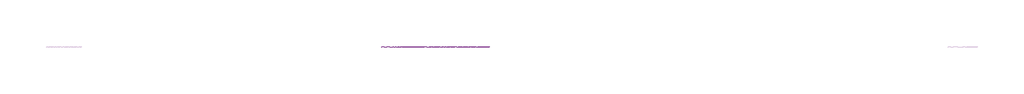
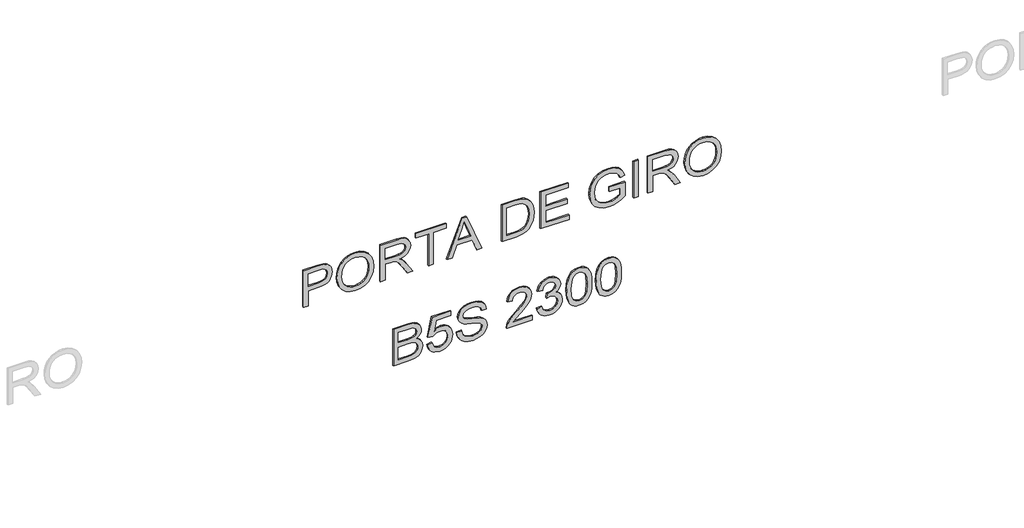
# One storey, part 3 of 13: 1 proxy.
"""IFC4 building model written with IfcOpenShell, lengths in millimetres."""

from ifc_helpers import new_model, si_unit, frame, origin, place, context, project, spatial, polyline, outline, extrude, element, save

model = new_model("IFC4")

# Units and contexts
model_context = context("Model", 3, world=origin())
ifc_project = project(units=[si_unit("LENGTHUNIT", "METRE", prefix="MILLI")], contexts=[model_context])

# Site, building, storey
site = spatial("IfcSite", under=ifc_project)
building = spatial("IfcBuilding", under=site)
storey = spatial("IfcBuildingStorey", under=building, Name="02 - Marelli - Planta Baixa - Portas", Elevation=-12000.0)

# Proxy
placement = place(None, origin())
element("IfcBuildingElementProxy", 1, Name="300mm Arial", ObjectType="300mm Arial", at=placement, inside=storey, context=model_context, shape_type="SweptSolid", body=[
    extrude(outline(polyline([(-6049.0625952, 12248.0968395), (-6049.0625952, 12285.7679558), (-5926.6314672, 12285.7679558), (-5926.6314672, 12362.3609872), (-5924.9668012, 12391.5593213), (-5919.9728031, 12415.8786204), (-5911.6494729, 12435.3188846), (-5899.9968107, 12449.8801138), (-5885.93912, 12460.4866116), (-5870.4007042, 12468.0626814), (-5853.3815634, 12472.6083233), (-5834.8816976, 12474.1235373), (-5813.4249802, 12471.8794571), (-5793.7892787, 12465.1472166), (-5777.1426184, 12454.7269591), (-5764.6530247, 12441.4188279), (-5755.9250244, 12424.8917293), (-5750.5631443, 12404.8145694), (-5747.6936647, 12359.7858132), (-5747.6936647, 12248.0968395), (-6049.0625952, 12248.0968395)]), holes=[polyline([(-5888.9603509, 12285.7679558), (-5785.364781, 12285.7679558), (-5785.364781, 12363.6853623), (-5787.939955, 12401.3564786), (-5794.2675253, 12415.5843148), (-5805.0096796, 12426.7771245), (-5819.283501, 12434.0335969), (-5836.2060728, 12436.452421), (-5858.4813276, 12432.3505367), (-5875.1279879, 12420.044884), (-5885.5022601, 12397.9719643), (-5888.9603509, 12364.5682791), (-5888.9603509, 12285.7679558)])]), frame((0.0, 8778.3159498, 0.0), z_axis=(0.0, 1.0, 0.0), x_axis=(0.0, 0.0, 1.0)), (0.0, 0.0, 1.0), 10.0),
    extrude(outline(polyline([(-5902.3512555, 12511.7946536), (-5940.8960916, 12516.0988729), (-5977.3623943, 12529.011531), (-6009.0554282, 12550.2751103), (-6033.2804576, 12579.6320935), (-6048.6487279, 12615.2798588), (-6053.7714847, 12655.4157845), (-6049.1361716, 12693.2248566), (-6035.2302322, 12728.3667842), (-6012.3111839, 12758.3307727), (-5980.6365441, 12780.6060275), (-5942.1744815, 12794.4291934), (-5898.8931648, 12799.0369154), (-5856.1820651, 12794.6591197), (-5818.2534314, 12781.5257325), (-5786.6339739, 12760.0414239), (-5762.8504029, 12730.6108643), (-5747.9511821, 12695.1654341), (-5742.9847752, 12655.6365137), (-5745.628927, 12625.3460299), (-5753.5613826, 12597.971011), (-5766.7821418, 12573.5114568), (-5785.2912046, 12551.9673675), (-5808.4723689, 12534.3918051), (-5835.7094321, 12521.8378321), (-5867.0023943, 12514.3054482), (-5902.3512555, 12511.7946536)]), holes=[polyline([(-5902.7191375, 12549.4657699), (-5872.1826326, 12551.4293401), (-5846.3504188, 12557.3200505), (-5825.222496, 12567.1379012), (-5808.7988641, 12580.8828923), (-5796.4863136, 12597.3502101), (-5787.6916347, 12615.3350411), (-5782.4148273, 12634.8373854), (-5780.6558915, 12655.8572429), (-5784.3071203, 12685.0210881), (-5795.2608067, 12711.1499068), (-5812.8547631, 12732.8089592), (-5836.426802, 12748.5635057), (-5865.2503563, 12758.1652258), (-5898.5988592, 12761.3657991), (-5925.1369466, 12759.4964987), (-5948.4652636, 12753.8885976), (-5968.5838102, 12744.5420956), (-5985.4925864, 12731.4569929), (-5998.883491, 12715.4748195), (-6008.4484229, 12697.4371054), (-6014.187382, 12677.3438507), (-6016.1003684, 12655.1950553), (-6014.2057761, 12633.4187405), (-6008.5219993, 12613.5600105), (-5999.0490379, 12595.6188655), (-5985.786892, 12579.5953053), (-5969.2276037, 12566.4136336), (-5949.8632152, 12556.9981538), (-5927.6937264, 12551.3488659), (-5902.7191375, 12549.4657699)])]), frame((0.0, 8778.3159498, 0.0), z_axis=(0.0, 1.0, 0.0), x_axis=(0.0, 0.0, 1.0)), (0.0, 0.0, 1.0), 10.0),
    extrude(outline(polyline([(-6049.0625952, 12850.8347003), (-6049.0625952, 12888.5058167), (-5917.2136881, 12888.5058167), (-5917.2136881, 12933.9760313), (-5918.5380633, 12955.8282218), (-5925.7117622, 12973.7440749), (-5945.2462961, 12993.6464909), (-5986.5962324, 13021.9734045), (-6049.0625952, 13061.1896252), (-6049.0625952, 13104.9675826), (-5967.3927923, 13054.7149021), (-5928.61803, 13024.1806965), (-5912.5047986, 13002.7699644), (-5902.5168024, 13039.8800606), (-5894.5015734, 13054.2619474), (-5884.4721905, 13065.8617265), (-5859.8608851, 13081.1748146), (-5830.1728081, 13086.2791773), (-5806.3064636, 13083.1981656), (-5784.5922289, 13073.9551304), (-5767.0810459, 13059.5525503), (-5755.8238568, 13040.9929037), (-5749.7262128, 13015.5998489), (-5747.6936647, 12980.6970446), (-5747.6936647, 12850.8347003), (-6049.0625952, 12850.8347003)]), holes=[polyline([(-5879.5425718, 12888.5058167), (-5785.364781, 12888.5058167), (-5785.364781, 12982.3157254), (-5788.6205367, 13012.1233641), (-5798.3878037, 13032.6787706), (-5813.195054, 13044.6257384), (-5831.5707596, 13048.608061), (-5844.8788908, 13046.5203306), (-5857.1385583, 13040.2571397), (-5867.2737073, 13029.9748379), (-5874.2082829, 13015.8297752), (-5878.2089996, 12997.0402023), (-5879.5425718, 12972.82437), (-5879.5425718, 12888.5058167)])]), frame((0.0, 8778.3159498, 0.0), z_axis=(0.0, 1.0, 0.0), x_axis=(0.0, 0.0, 1.0)), (0.0, 0.0, 1.0), 10.0),
    extrude(outline(polyline([(-6049.0625952, 13227.5458634), (-6049.0625952, 13265.2169797), (-5785.364781, 13265.2169797), (-5785.364781, 13364.10366), (-5747.6936647, 13364.10366), (-5747.6936647, 13128.6591831), (-5785.364781, 13128.6591831), (-5785.364781, 13227.5458634), (-6049.0625952, 13227.5458634)])), frame((0.0, 8778.3159498, 0.0), z_axis=(0.0, 1.0, 0.0), x_axis=(0.0, 0.0, 1.0)), (0.0, 0.0, 1.0), 10.0),
    extrude(outline(polyline([(-6049.0625952, 13371.3877235), (-6049.0625952, 13411.1925554), (-5954.8848044, 13445.6263102), (-5954.8848044, 13569.7496953), (-6049.0625952, 13604.2570265), (-6049.0625952, 13644.0618583), (-5747.6936647, 13523.7644459), (-5747.6936647, 13491.6851359), (-6049.0625952, 13371.3877235)]), holes=[polyline([(-5917.2136881, 13459.4586732), (-5836.6475312, 13488.9628092), (-5785.364781, 13507.7247909), (-5843.1222543, 13528.8412175), (-5917.2136881, 13555.9909087), (-5917.2136881, 13459.4586732)])]), frame((0.0, 8778.3159498, 0.0), z_axis=(0.0, 1.0, 0.0), x_axis=(0.0, 0.0, 1.0)), (0.0, 0.0, 1.0), 10.0),
    extrude(outline(polyline([(-6049.0625952, 13802.0303871), (-6049.0625952, 13910.9970341), (-6043.9122473, 13959.4470928), (-6037.5570858, 13978.9908238), (-6028.7922972, 13995.4627401), (-6016.9740882, 14009.810138), (-6001.458665, 14022.9803134), (-5981.8045694, 14034.4214434), (-5957.570343, 14043.5817051), (-5929.1054736, 14049.5965757), (-5896.7594492, 14051.6015326), (-5858.6836627, 14048.6400825), (-5825.0960365, 14039.7557324), (-5796.5483937, 14024.9116939), (-5773.5925572, 14004.0711788), (-5760.4039877, 13983.8008809), (-5752.0346723, 13959.7781866), (-5747.6936647, 13905.9938389), (-5747.6936647, 13802.0303871), (-6049.0625952, 13802.0303871)]), holes=[polyline([(-6011.3914789, 13839.7015034), (-5785.364781, 13839.7015034), (-5785.364781, 13905.3316513), (-5786.8730972, 13937.0798675), (-5791.3980458, 13958.748117), (-5803.97961, 13980.0392875), (-5824.8017309, 13997.8539731), (-5855.1152073, 14009.9113055), (-5896.170838, 14013.9304163), (-5927.155699, 14011.8794742), (-5953.155759, 14005.7266478), (-5974.2629885, 13995.8950015), (-5990.5693579, 13982.8075995), (-5999.3801317, 13970.6307055), (-6005.9468253, 13954.8485679), (-6010.0303155, 13933.9344764), (-6011.3914789, 13906.3617209), (-6011.3914789, 13839.7015034)])]), frame((0.0, 8778.3159498, 0.0), z_axis=(0.0, 1.0, 0.0), x_axis=(0.0, 0.0, 1.0)), (0.0, 0.0, 1.0), 10.0),
    extrude(outline(polyline([(-6049.0625952, 14103.3993175), (-6049.0625952, 14324.7171258), (-6011.3914789, 14324.7171258), (-6011.3914789, 14141.0704338), (-5912.5047986, 14141.0704338), (-5912.5047986, 14310.5904572), (-5874.8336823, 14310.5904572), (-5874.8336823, 14141.0704338), (-5785.364781, 14141.0704338), (-5785.364781, 14320.0082363), (-5747.6936647, 14320.0082363), (-5747.6936647, 14103.3993175), (-6049.0625952, 14103.3993175)])), frame((0.0, 8778.3159498, 0.0), z_axis=(0.0, 1.0, 0.0), x_axis=(0.0, 0.0, 1.0)), (0.0, 0.0, 1.0), 10.0),
    extrude(outline(polyline([(-5931.3403567, 14640.2127249), (-5931.3403567, 14724.9727366), (-5985.786892, 14724.9727366), (-5996.4278787, 14708.9238845), (-6006.4250719, 14686.8233737), (-6013.6815443, 14661.3751367), (-6016.1003684, 14635.2831062), (-6012.890598, 14605.7329849), (-6003.2612868, 14577.8567267), (-5987.0192967, 14554.0363675), (-5963.9714897, 14536.6539432), (-5934.3293979, 14526.0313506), (-5898.3045536, 14522.4904864), (-5867.586407, 14525.4335424), (-5839.1491287, 14534.2627103), (-5810.1232393, 14553.6500914), (-5798.1854686, 14568.0894597), (-5788.7860836, 14586.4651654), (-5782.6884395, 14608.694435), (-5780.6558915, 14634.694495), (-5782.5412867, 14656.9053704), (-5788.1974724, 14677.0377126), (-5796.9898521, 14693.9234962), (-5808.2838293, 14706.3946958), (-5823.2658236, 14715.8216719), (-5843.1222543, 14723.574785), (-5833.3365932, 14758.3028453), (-5805.4971232, 14748.7103223), (-5783.4885829, 14735.5309498), (-5766.4924347, 14717.7162642), (-5753.6901413, 14694.2178018), (-5745.6611167, 14666.3139524), (-5742.9847752, 14635.2831062), (-5747.6016942, 14593.0134649), (-5761.4524514, 14555.967748), (-5784.803761, 14525.553104), (-5817.9223376, 14503.1766817), (-5857.4052727, 14489.408698), (-5899.8496579, 14484.8193701), (-5941.9905405, 14489.4270921), (-5979.9743565, 14503.2502581), (-6011.6397992, 14526.1141241), (-6034.825562, 14557.8439462), (-6049.035004, 14596.0392943), (-6053.7714847, 14638.2997385), (-6050.7916406, 14670.6457629), (-6041.8521081, 14702.2008411), (-6027.0080696, 14732.8913965), (-6006.3147073, 14762.6438529), (-5893.6692404, 14762.6438529), (-5893.6692404, 14640.2127249), (-5931.3403567, 14640.2127249)])), frame((0.0, 8778.3159498, 0.0), z_axis=(0.0, 1.0, 0.0), x_axis=(0.0, 0.0, 1.0)), (0.0, 0.0, 1.0), 10.0),
    extrude(outline(polyline([(14866.2394227, 8778.3159498), (14828.5683064, 8778.3159498), (14828.5683064, 8788.3159498), (14866.2394227, 8788.3159498), (14866.2394227, 8778.3159498)])), frame((0.0, 0.0, -6049.0625952), z_axis=(0.0, 0.0, 1.0), x_axis=(1.0, 0.0, 0.0)), (0.0, 0.0, 1.0), 301.3689304),
    extrude(outline(polyline([(-6049.0625952, 14941.5816553), (-6049.0625952, 14979.2527716), (-5917.2136881, 14979.2527716), (-5917.2136881, 15024.7229862), (-5918.5380633, 15046.5751768), (-5925.7117622, 15064.4910299), (-5945.2462961, 15084.3934459), (-5986.5962324, 15112.7203595), (-6049.0625952, 15151.9365802), (-6049.0625952, 15195.7145376), (-5967.3927923, 15145.4618571), (-5928.61803, 15114.9276515), (-5912.5047986, 15093.5169193), (-5902.5168024, 15130.6270156), (-5894.5015734, 15145.0089024), (-5884.4721905, 15156.6086815), (-5859.8608851, 15171.9217696), (-5830.1728081, 15177.0261323), (-5806.3064636, 15173.9451205), (-5784.5922289, 15164.7020854), (-5767.0810459, 15150.2995053), (-5755.8238568, 15131.7398586), (-5749.7262128, 15106.3468039), (-5747.6936647, 15071.4439996), (-5747.6936647, 14941.5816553), (-6049.0625952, 14941.5816553)]), holes=[polyline([(-5879.5425718, 14979.2527716), (-5785.364781, 14979.2527716), (-5785.364781, 15073.0626804), (-5788.6205367, 15102.8703191), (-5798.3878037, 15123.4257256), (-5813.195054, 15135.3726933), (-5831.5707596, 15139.3550159), (-5844.8788908, 15137.2672856), (-5857.1385583, 15131.0040947), (-5867.2737073, 15120.7217929), (-5874.2082829, 15106.5767302), (-5878.2089996, 15087.7871573), (-5879.5425718, 15063.5713249), (-5879.5425718, 14979.2527716)])]), frame((0.0, 8778.3159498, 0.0), z_axis=(0.0, 1.0, 0.0), x_axis=(0.0, 0.0, 1.0)), (0.0, 0.0, 1.0), 10.0),
    extrude(outline(polyline([(-5902.3512555, 15228.8239172), (-5940.8960916, 15233.1281365), (-5977.3623943, 15246.0407945), (-6009.0554282, 15267.3043739), (-6033.2804576, 15296.6613571), (-6048.6487279, 15332.3091224), (-6053.7714847, 15372.4450481), (-6049.1361716, 15410.2541201), (-6035.2302322, 15445.3960477), (-6012.3111839, 15475.3600362), (-5980.6365441, 15497.635291), (-5942.1744815, 15511.458457), (-5898.8931648, 15516.066179), (-5856.1820651, 15511.6883833), (-5818.2534314, 15498.554996), (-5786.6339739, 15477.0706875), (-5762.8504029, 15447.6401279), (-5747.9511821, 15412.1946977), (-5742.9847752, 15372.6657773), (-5745.628927, 15342.3752935), (-5753.5613826, 15315.0002745), (-5766.7821418, 15290.5407204), (-5785.2912046, 15268.996631), (-5808.4723689, 15251.4210687), (-5835.7094321, 15238.8670956), (-5867.0023943, 15231.3347118), (-5902.3512555, 15228.8239172)]), holes=[polyline([(-5902.7191375, 15266.4950335), (-5872.1826326, 15268.4586036), (-5846.3504188, 15274.3493141), (-5825.222496, 15284.1671648), (-5808.7988641, 15297.9121559), (-5796.4863136, 15314.3794737), (-5787.6916347, 15332.3643047), (-5782.4148273, 15351.866649), (-5780.6558915, 15372.8865065), (-5784.3071203, 15402.0503517), (-5795.2608067, 15428.1791704), (-5812.8547631, 15449.8382228), (-5836.426802, 15465.5927693), (-5865.2503563, 15475.1944893), (-5898.5988592, 15478.3950627), (-5925.1369466, 15476.5257623), (-5948.4652636, 15470.9178611), (-5968.5838102, 15461.5713592), (-5985.4925864, 15448.4862565), (-5998.883491, 15432.5040831), (-6008.4484229, 15414.466369), (-6014.187382, 15394.3731143), (-6016.1003684, 15372.2243189), (-6014.2057761, 15350.448004), (-6008.5219993, 15330.5892741), (-5999.0490379, 15312.648129), (-5985.786892, 15296.6245689), (-5969.2276037, 15283.4428971), (-5949.8632152, 15274.0274173), (-5927.6937264, 15268.3781294), (-5902.7191375, 15266.4950335)])]), frame((0.0, 8778.3159498, 0.0), z_axis=(0.0, 1.0, 0.0), x_axis=(0.0, 0.0, 1.0)), (0.0, 0.0, 1.0), 10.0),
    extrude(outline(polyline([(-6780.9115023, 12954.4302702), (-6780.9115023, 13068.5472651), (-6775.7243661, 13116.8501711), (-6769.3048253, 13134.8855859), (-6760.4204751, 13149.6284568), (-6748.1516106, 13161.6673951), (-6731.5785267, 13171.5910119), (-6712.089978, 13178.240479), (-6691.074719, 13180.456968), (-6665.8564083, 13177.2104094), (-6644.2065528, 13167.4707336), (-6627.2471929, 13151.6977931), (-6616.1003684, 13130.3514403), (-6604.3557357, 13148.2213082), (-6589.4289238, 13160.9224341), (-6572.3683962, 13168.5100002), (-6554.2226168, 13171.039189), (-6534.5041419, 13168.0317536), (-6515.6685837, 13159.0094477), (-6499.6565199, 13144.680444), (-6488.4085279, 13125.7529153), (-6481.7590608, 13101.0588364), (-6479.5425718, 13069.4301819), (-6479.5425718, 12954.4302702), (-6780.9115023, 12954.4302702)]), holes=[polyline([(-6743.2403859, 12992.1013865), (-6639.6448161, 12992.1013865), (-6639.6448161, 13065.6777855), (-6640.9048119, 13092.50558), (-6644.6847994, 13112.2148579), (-6651.5733898, 13126.1299944), (-6662.1591942, 13135.5753646), (-6675.6972516, 13140.9832299), (-6691.442601, 13142.7858517), (-6704.9990525, 13141.2499444), (-6716.8264587, 13136.6422224), (-6733.5650895, 13120.9704494), (-6741.768858, 13097.3156371), (-6743.2403859, 13069.3566055), (-6743.2403859, 12992.1013865)]), polyline([(-6601.9736998, 12992.1013865), (-6517.2136881, 12992.1013865), (-6517.2136881, 13055.6713953), (-6521.1500255, 13104.0846658), (-6526.7510288, 13116.5742596), (-6535.6813643, 13125.7897035), (-6547.1224943, 13131.4734804), (-6560.2558815, 13133.3680726), (-6573.7847419, 13131.3355246), (-6584.7936106, 13125.2378806), (-6593.153729, 13115.1303227), (-6598.7363382, 13101.0680335), (-6601.9736998, 13060.8953196), (-6601.9736998, 12992.1013865)])]), frame((0.0, 8778.3159498, 0.0), z_axis=(0.0, 1.0, 0.0), x_axis=(0.0, 0.0, 1.0)), (0.0, 0.0, 1.0), 10.0),
    extrude(outline(polyline([(-6700.8603801, 13218.1280843), (-6735.4136965, 13227.3159372), (-6749.8553641, 13236.0416382), (-6762.4070379, 13247.5218557), (-6772.5628802, 13261.3197298), (-6779.8170533, 13276.9984006), (-6785.6203918, 13313.9981323), (-6783.362516, 13337.4873977), (-6776.5888888, 13358.3647009), (-6765.2995101, 13376.630042), (-6749.4943799, 13392.2834209), (-6734.0617302, 13402.6163064), (-6717.2679171, 13409.9969389), (-6679.5968008, 13415.9014449), (-6659.3356999, 13414.2620708), (-6641.0059795, 13409.3439484), (-6624.6076396, 13401.1470777), (-6610.1406801, 13389.6714587), (-6598.3270695, 13375.8092053), (-6589.8887763, 13360.4524312), (-6584.8258003, 13343.6011366), (-6583.1381416, 13325.2553213), (-6588.5827952, 13297.0571664), (-6604.9167558, 13270.1465985), (-6521.9225776, 13286.2598298), (-6521.9225776, 13401.7747763), (-6484.2514613, 13401.7747763), (-6484.2514613, 13255.7992006), (-6639.6448161, 13222.8369739), (-6644.3537056, 13260.5080902), (-6627.3575575, 13281.6613049), (-6622.4463328, 13296.4593582), (-6620.809258, 13314.7338963), (-6624.9111422, 13342.6285486), (-6637.2167949, 13362.448191), (-6656.6041761, 13374.2847942), (-6681.9512456, 13378.2303286), (-6708.8710105, 13374.0180798), (-6729.8862695, 13361.3813333), (-6743.433524, 13341.1478235), (-6747.9492755, 13314.1452851), (-6744.7027169, 13291.9436067), (-6734.9630411, 13274.7819116), (-6718.7670362, 13262.7153821), (-6696.1514906, 13255.7992006), (-6700.8603801, 13218.1280843)])), frame((0.0, 8778.3159498, 0.0), z_axis=(0.0, 1.0, 0.0), x_axis=(0.0, 0.0, 1.0)), (0.0, 0.0, 1.0), 10.0),
    extrude(outline(polyline([(-6677.3159324, 13448.8636717), (-6707.7397734, 13453.333438), (-6734.8526765, 13465.1240559), (-6757.1095372, 13483.4905645), (-6772.9652512, 13507.6880027), (-6782.4566066, 13538.0658585), (-6785.6203918, 13574.9736197), (-6782.6865329, 13605.0387757), (-6773.8849561, 13631.9585407), (-6759.7950757, 13654.3441601), (-6740.9963058, 13670.8068794), (-6719.1533123, 13680.9328313), (-6695.9307614, 13684.3081486), (-6673.2140482, 13681.3742897), (-6653.3300263, 13672.572713), (-6636.4626368, 13657.5907187), (-6622.7958207, 13636.1156073), (-6613.9850469, 13610.989267), (-6603.8866862, 13569.4553897), (-6593.2548965, 13529.2090995), (-6582.8438361, 13507.9455201), (-6571.2003709, 13498.9508054), (-6556.7242144, 13495.9525671), (-6539.7464603, 13500.18321), (-6525.4542448, 13512.8751389), (-6515.7421601, 13534.8192999), (-6512.5047986, 13566.8066394), (-6515.7789483, 13598.0582149), (-6525.6013976, 13620.5909871), (-6541.8249936, 13635.0119613), (-6564.3025835, 13641.9281428), (-6564.3025835, 13679.5992591), (-6539.3417901, 13675.350222), (-6517.1401117, 13664.6632501), (-6498.8379825, 13647.7774665), (-6485.5758365, 13624.9319946), (-6477.5192208, 13597.1201158), (-6474.8336823, 13565.3351114), (-6477.3996592, 13535.9965223), (-6485.0975899, 13509.4906245), (-6497.7527306, 13487.4085078), (-6515.1903371, 13471.3412616), (-6535.7641377, 13461.5464035), (-6557.8278604, 13458.2814508), (-6577.5647294, 13460.9210041), (-6595.2782475, 13468.839664), (-6610.6373208, 13482.1294011), (-6623.3108555, 13500.8821858), (-6632.3699497, 13523.9207958), (-6641.8888963, 13559.9272461), (-6656.2730823, 13614.7784515), (-6664.0813776, 13630.8548947), (-6673.3795951, 13640.3830384), (-6684.2780992, 13645.0735338), (-6696.8872546, 13646.6370323), (-6709.8275037, 13644.549302), (-6722.1607476, 13638.286111), (-6732.9029019, 13627.7554889), (-6741.0698822, 13612.8654652), (-6746.2294272, 13594.4897595), (-6747.9492755, 13573.5020917), (-6745.6776042, 13549.6633384), (-6738.8625902, 13528.3261827), (-6728.3595592, 13510.870182), (-6715.0238369, 13498.6748939), (-6698.2208268, 13490.8574015), (-6677.3159324, 13486.534788), (-6677.3159324, 13448.8636717)])), frame((0.0, 8778.3159498, 0.0), z_axis=(0.0, 1.0, 0.0), x_axis=(0.0, 0.0, 1.0)), (0.0, 0.0, 1.0), 10.0),
    extrude(outline(polyline([(-6743.2403859, 14037.474864), (-6743.2403859, 13889.5127255), (-6724.073734, 13906.5088737), (-6687.8373575, 13949.8453727), (-6658.8206651, 13982.5408851), (-6636.2235136, 14003.8136614), (-6617.2959849, 14017.1585808), (-6599.2881612, 14026.0705221), (-6581.5838402, 14031.0921114), (-6563.5668195, 14032.7659745), (-6546.4143215, 14031.2139723), (-6530.7149573, 14026.5579658), (-6516.4687271, 14018.7979549), (-6503.6756307, 14007.9339398), (-6493.1174174, 13994.4073787), (-6485.5758365, 13978.65973), (-6481.050888, 13960.6909938), (-6479.5425718, 13940.5011701), (-6484.9688312, 13902.6185216), (-6491.7516555, 13886.8846685), (-6501.2476095, 13873.2891295), (-6513.3279345, 13862.0894221), (-6527.8638719, 13853.5430635), (-6564.3025835, 13844.4103929), (-6569.011473, 13882.0815092), (-6547.3616176, 13886.1558023), (-6530.9724747, 13897.9372232), (-6520.6533848, 13916.1933672), (-6517.2136881, 13939.6918297), (-6520.7361582, 13962.068252), (-6531.3035685, 13979.7541789), (-6546.9845386, 13991.2596883), (-6565.8476879, 13995.0948581), (-6586.890538, 13991.0297621), (-6608.5219993, 13978.834474), (-6635.1750499, 13954.4438977), (-6671.2826677, 13913.7929372), (-6694.3396717, 13886.2937581), (-6714.9502605, 13866.6304654), (-6734.6411443, 13853.0372257), (-6754.9390334, 13843.7482053), (-6780.9115023, 13839.7015034), (-6780.9115023, 14037.474864), (-6743.2403859, 14037.474864)])), frame((0.0, 8778.3159498, 0.0), z_axis=(0.0, 1.0, 0.0), x_axis=(0.0, 0.0, 1.0)), (0.0, 0.0, 1.0), 10.0),
    extrude(outline(polyline([(-6700.8603801, 14075.1459803), (-6718.7532406, 14078.3971374), (-6734.9078588, 14084.4717889), (-6749.3242344, 14093.3699346), (-6762.0023677, 14105.0915747), (-6772.3352532, 14119.0710905), (-6779.7158858, 14134.7428635), (-6784.1442653, 14152.1068937), (-6785.6203918, 14171.163181), (-6783.8913464, 14192.2474179), (-6778.7042103, 14211.4278654), (-6770.0589834, 14228.7045236), (-6757.9556658, 14244.0773925), (-6743.3691446, 14256.6957449), (-6727.2743074, 14265.7088538), (-6709.6711539, 14271.1167191), (-6690.5596842, 14272.9193409), (-6663.593934, 14269.3140974), (-6641.5578025, 14258.4983667), (-6625.3342065, 14241.0239719), (-6615.8060628, 14217.442736), (-6604.9351499, 14235.3953774), (-6590.8636635, 14248.3448236), (-6574.345762, 14256.1807101), (-6556.1356032, 14258.7926723), (-6536.5918722, 14256.0427544), (-6518.1333931, 14247.7930006), (-6502.1121322, 14234.3469137), (-6489.8800559, 14216.0079963), (-6482.1269428, 14194.2569733), (-6479.5425718, 14170.5745698), (-6484.7848902, 14137.6859195), (-6500.5118455, 14110.683381), (-6525.7669445, 14090.946512), (-6559.593694, 14079.8548698), (-6564.3025835, 14117.5259861), (-6543.7011918, 14124.2030444), (-6528.985912, 14135.9936623), (-6520.1567441, 14152.1436819), (-6517.2136881, 14171.898945), (-6520.1291529, 14191.61742), (-6528.8755474, 14207.3627694), (-6542.0733139, 14217.6818593), (-6558.3428952, 14221.121556), (-6577.8774291, 14216.3758782), (-6591.5994275, 14202.138845), (-6599.7112255, 14181.9605176), (-6602.4151582, 14159.3909572), (-6601.9736998, 14153.3576925), (-6639.6448161, 14149.1638377), (-6635.5245378, 14175.577765), (-6639.3781017, 14199.2693655), (-6650.9387934, 14218.3992292), (-6668.385597, 14231.0359758), (-6689.8974966, 14235.2482246), (-6712.5590276, 14230.9991876), (-6731.2474329, 14218.2520764), (-6743.7738148, 14198.3128723), (-6747.9492755, 14172.4875562), (-6744.914249, 14150.4790159), (-6735.8091696, 14133.6024293), (-6719.824697, 14121.2507913), (-6696.1514906, 14112.8170966), (-6700.8603801, 14075.1459803)])), frame((0.0, 8778.3159498, 0.0), z_axis=(0.0, 1.0, 0.0), x_axis=(0.0, 0.0, 1.0)), (0.0, 0.0, 1.0), 10.0),
    extrude(outline(polyline([(-6632.6550582, 14305.8815677), (-6672.0966066, 14307.7577658), (-6705.9555457, 14313.3863604), (-6734.2318756, 14322.7673513), (-6756.9255962, 14335.9007385), (-6769.4795693, 14349.5859487), (-6778.4466929, 14365.6256037), (-6783.8269671, 14384.0197034), (-6785.6203918, 14404.768248), (-6781.4909164, 14435.2196801), (-6769.1024902, 14459.9137591), (-6748.3171575, 14479.0160317), (-6718.9969625, 14492.6920448), (-6680.6176733, 14500.9142074), (-6632.6550582, 14503.6549283), (-6592.6938765, 14501.944277), (-6561.8377741, 14496.8123232), (-6537.5391683, 14488.9764367), (-6517.2504763, 14479.1539874), (-6501.1096538, 14466.1493589), (-6489.2546565, 14448.7669346), (-6481.970593, 14427.9816019), (-6479.5425718, 14404.768248), (-6483.6444561, 14374.4823627), (-6495.9501088, 14349.8434661), (-6516.6526681, 14330.7136023), (-6545.9452719, 14316.9548157), (-6584.4165316, 14308.6498797), (-6632.6550582, 14305.8815677)]), holes=[polyline([(-6632.5814818, 14343.552684), (-6574.0882446, 14348.1144207), (-6553.0086062, 14353.8165916), (-6537.3736214, 14361.7996309), (-6522.2536714, 14380.7455537), (-6517.2136881, 14404.3267896), (-6522.9342531, 14429.2324007), (-6540.0959482, 14448.9140874), (-6554.4571416, 14456.3820919), (-6574.6584617, 14461.7163808), (-6632.5814818, 14465.983812), (-6691.7461037, 14461.569228), (-6712.0095038, 14456.0509981), (-6726.0602968, 14448.3254762), (-6742.4770308, 14428.6070013), (-6747.9492755, 14404.768248), (-6742.4954249, 14380.9294947), (-6726.1338732, 14361.2110197), (-6712.1060728, 14353.4854978), (-6691.8380742, 14347.9672679), (-6632.5814818, 14343.552684)])]), frame((0.0, 8778.3159498, 0.0), z_axis=(0.0, 1.0, 0.0), x_axis=(0.0, 0.0, 1.0)), (0.0, 0.0, 1.0), 10.0),
    extrude(outline(polyline([(-6632.6550582, 14536.617155), (-6672.0966066, 14538.4933532), (-6705.9555457, 14544.1219477), (-6734.2318756, 14553.5029386), (-6756.9255962, 14566.6363259), (-6769.4795693, 14580.3215361), (-6778.4466929, 14596.3611911), (-6783.8269671, 14614.7552908), (-6785.6203918, 14635.5038354), (-6781.4909164, 14665.9552675), (-6769.1024902, 14690.6493464), (-6748.3171575, 14709.751619), (-6718.9969625, 14723.4276322), (-6680.6176733, 14731.6497948), (-6632.6550582, 14734.3905157), (-6592.6938765, 14732.6798644), (-6561.8377741, 14727.5479105), (-6537.5391683, 14719.712024), (-6517.2504763, 14709.8895748), (-6501.1096538, 14696.8849462), (-6489.2546565, 14679.502522), (-6481.970593, 14658.7171892), (-6479.5425718, 14635.5038354), (-6483.6444561, 14605.2179501), (-6495.9501088, 14580.5790535), (-6516.6526681, 14561.4491897), (-6545.9452719, 14547.6904031), (-6584.4165316, 14539.3854671), (-6632.6550582, 14536.617155)]), holes=[polyline([(-6632.5814818, 14574.2882714), (-6574.0882446, 14578.8500081), (-6553.0086062, 14584.552179), (-6537.3736214, 14592.5352183), (-6522.2536714, 14611.4811411), (-6517.2136881, 14635.062377), (-6522.9342531, 14659.967988), (-6540.0959482, 14679.6496748), (-6554.4571416, 14687.1176793), (-6574.6584617, 14692.4519682), (-6632.5814818, 14696.7193993), (-6691.7461037, 14692.3048154), (-6712.0095038, 14686.7865855), (-6726.0602968, 14679.0610636), (-6742.4770308, 14659.3425886), (-6747.9492755, 14635.5038354), (-6742.4954249, 14611.6650821), (-6726.1338732, 14591.9466071), (-6712.1060728, 14584.2210852), (-6691.8380742, 14578.7028553), (-6632.5814818, 14574.2882714)])]), frame((0.0, 8778.3159498, 0.0), z_axis=(0.0, 1.0, 0.0), x_axis=(0.0, 0.0, 1.0)), (0.0, 0.0, 1.0), 10.0),
])

save(model, "model.ifc")
